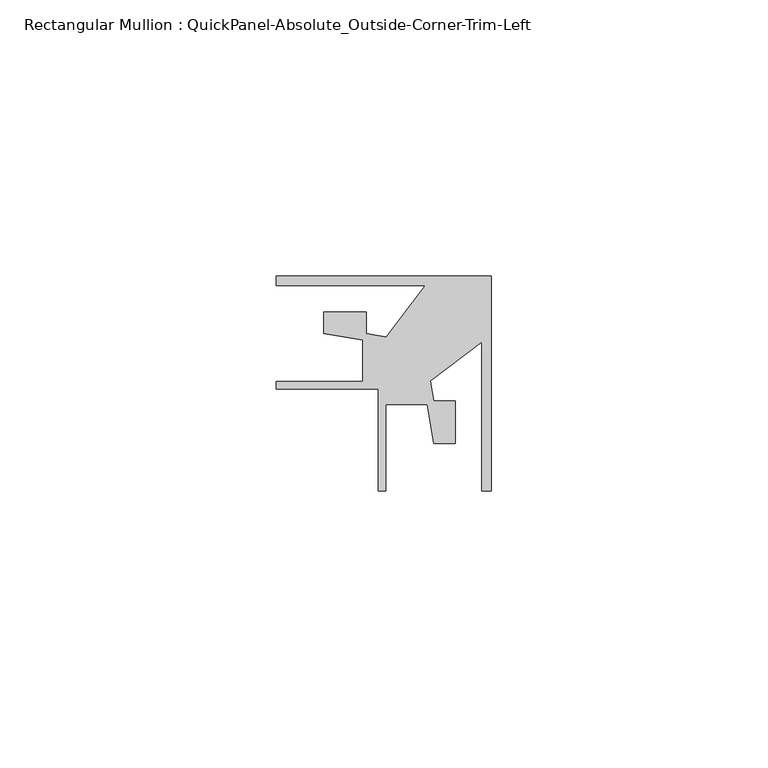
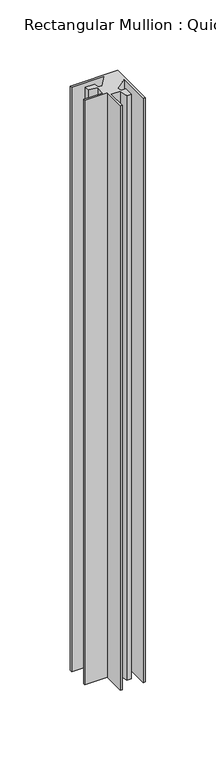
"""IFC4 building model written with IfcOpenShell, lengths in millimetres: member geometry, Rectangular Mullion : QuickPanel-Absolute_Outside-Corner-Trim-Left."""

from ifc_helpers import new_model, si_unit, frame, origin, place, context, project, spatial, polyline, outline, extrude, source, transform, mapped, element, save


def rectangular_mullion_quickpanel_absolute_outside_corner_trim_eb6b40db(model_context):
    return source(origin(), model_context, "Body", "SweptSolid", [
        extrude(outline(polyline([(-11.9918292, 10.4985348), (-38.9299221, 10.4985348), (-38.9299221, 12.1803727), (0.0, 12.1803727), (0.0, -26.7495494), (-1.6818379, -26.7495494), (-1.6818379, 0.1885435), (-11.0274882, -6.8539091), (-10.4155262, -10.423615), (-6.5310693, -10.423615), (-6.5310693, -18.168388), (-10.3763482, -18.168388), (-11.5910049, -11.083034), (-19.0600811, -11.083034), (-19.0600811, -26.7495494), (-20.4601097, -26.7495494), (-20.4601097, -8.279737), (-38.9299221, -8.279737), (-38.9299221, -6.8797084), (-23.2634067, -6.8797084), (-23.2634067, 0.5893678), (-30.3487608, 1.8040245), (-30.3487608, 5.6493034), (-22.6039877, 5.6493034), (-22.6039877, 1.7648465), (-19.0342818, 1.1528845), (-11.9918292, 10.4985348)])), frame((0.0, 0.0, -506.7037574), z_axis=(0.0, 0.0, 1.0), x_axis=(1.0, 0.0, 0.0)), (0.0, 0.0, 1.0), 506.7037574),
    ])


if __name__ == "__main__":
    model = new_model("IFC4")
    model_context = context("Model", 3, world=origin())
    ifc_project = project(units=[si_unit("LENGTHUNIT", "METRE", prefix="MILLI")], contexts=[model_context])
    site = spatial("IfcSite", under=ifc_project)
    building = spatial("IfcBuilding", under=site)
    placement = place(None, origin())
    rectangular_mullion_quickpanel_absolute_outside_corner_trim_shape = rectangular_mullion_quickpanel_absolute_outside_corner_trim_eb6b40db(model_context)
    element("IfcMember", 1, ObjectType="Rectangular Mullion : QuickPanel-Absolute_Outside-Corner-Trim-Left", at=placement, inside=building, context=model_context, shape_type="MappedRepresentation", body=[
        mapped(rectangular_mullion_quickpanel_absolute_outside_corner_trim_shape, transform((0.0, 0.0, 0.0), x_axis=(1.0, 0.0, 0.0), y_axis=(0.0, 1.0, 0.0), z_axis=(0.0, 0.0, 1.0))),
    ])
    save(model, "model.ifc")
